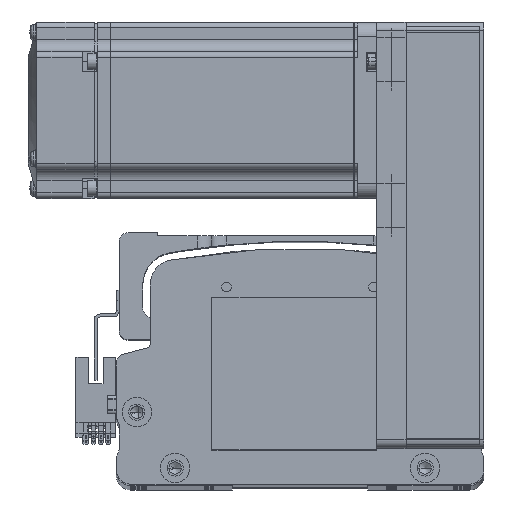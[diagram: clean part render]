
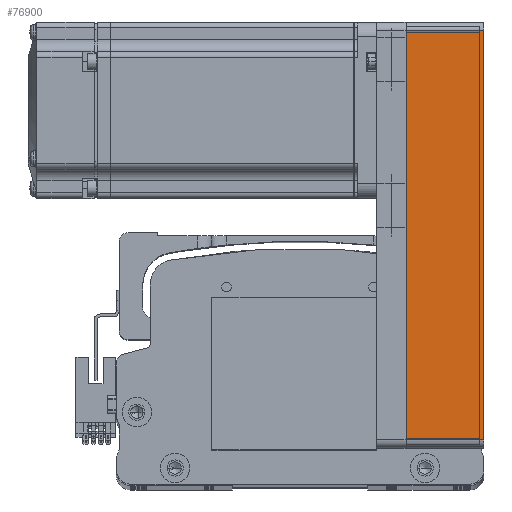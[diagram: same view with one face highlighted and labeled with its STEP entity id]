
A CAD part, top view. The second image highlights one B-rep face of the part: STEP entity #76900.
In plain terms, the highlighted planar face has unit normal (0, 0, 1) as drawn and (0, 1, 0) by its records, which use the part's own axes.
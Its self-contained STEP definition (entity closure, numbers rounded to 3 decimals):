
#2076 = CARTESIAN_POINT ( 'NONE',  ( -69.5, 30., 0. ) ) ;
#2137 = FACE_OUTER_BOUND ( 'NONE', #23069, .T. ) ;
#4484 = DIRECTION ( 'NONE',  ( -1., 0., 0. ) ) ;
#5414 = DIRECTION ( 'NONE',  ( 1., 0., 0. ) ) ;
#5749 = DIRECTION ( 'NONE',  ( -1., 0., 0. ) ) ;
#9450 = CARTESIAN_POINT ( 'NONE',  ( -69.5, 30., 26.5 ) ) ;
#12085 = EDGE_CURVE ( 'NONE', #46965, #13681, #58066, .T. ) ;
#13681 = VERTEX_POINT ( 'NONE', #44664 ) ;
#13918 = VERTEX_POINT ( 'NONE', #2076 ) ;
#14025 = CARTESIAN_POINT ( 'NONE',  ( 69.5, 30., 26.5 ) ) ;
#14361 = ORIENTED_EDGE ( 'NONE', *, *, #47276, .T. ) ;
#20550 = VECTOR ( 'NONE', #28818, 1000. ) ;
#23069 = EDGE_LOOP ( 'NONE', ( #37871, #80685, #82492, #14361 ) ) ;
#28818 = DIRECTION ( 'NONE',  ( 0., 0., 1. ) ) ;
#29074 = EDGE_CURVE ( 'NONE', #13918, #13681, #37586, .T. ) ;
#34734 = LINE ( 'NONE', #69097, #68965 ) ;
#36297 = EDGE_CURVE ( 'NONE', #50189, #13918, #56436, .T. ) ;
#36991 = DIRECTION ( 'NONE',  ( 0., 0., -1. ) ) ;
#37586 = LINE ( 'NONE', #9450, #20550 ) ;
#37871 = ORIENTED_EDGE ( 'NONE', *, *, #36297, .T. ) ;
#39360 = VECTOR ( 'NONE', #5749, 1000. ) ;
#43839 = DIRECTION ( 'NONE',  ( 0., -1., 0. ) ) ;
#44664 = CARTESIAN_POINT ( 'NONE',  ( -69.5, 30., 26.5 ) ) ;
#46965 = VERTEX_POINT ( 'NONE', #14025 ) ;
#47276 = EDGE_CURVE ( 'NONE', #46965, #50189, #34734, .T. ) ;
#50189 = VERTEX_POINT ( 'NONE', #63229 ) ;
#56436 = LINE ( 'NONE', #76250, #39360 ) ;
#56474 = PLANE ( 'NONE',  #68659 ) ;
#58066 = LINE ( 'NONE', #62277, #71205 ) ;
#62277 = CARTESIAN_POINT ( 'NONE',  ( 72.5, 30., 26.5 ) ) ;
#63229 = CARTESIAN_POINT ( 'NONE',  ( 69.5, 30., 0. ) ) ;
#68659 = AXIS2_PLACEMENT_3D ( 'NONE', #82401, #43839, #5414 ) ;
#68965 = VECTOR ( 'NONE', #36991, 1000. ) ;
#69097 = CARTESIAN_POINT ( 'NONE',  ( 69.5, 30., 26.5 ) ) ;
#71205 = VECTOR ( 'NONE', #4484, 1000. ) ;
#76250 = CARTESIAN_POINT ( 'NONE',  ( 72.5, 30., 0. ) ) ;
#76900 = ADVANCED_FACE ( 'NONE', ( #2137 ), #56474, .F. ) ;
#80685 = ORIENTED_EDGE ( 'NONE', *, *, #29074, .T. ) ;
#82401 = CARTESIAN_POINT ( 'NONE',  ( 72.5, 30., 26.5 ) ) ;
#82492 = ORIENTED_EDGE ( 'NONE', *, *, #12085, .F. ) ;
